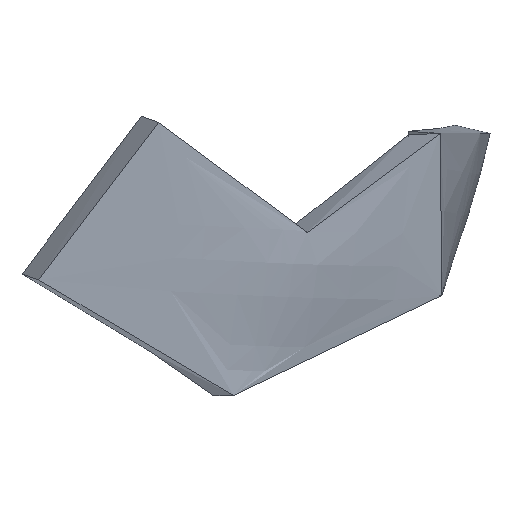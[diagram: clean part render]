
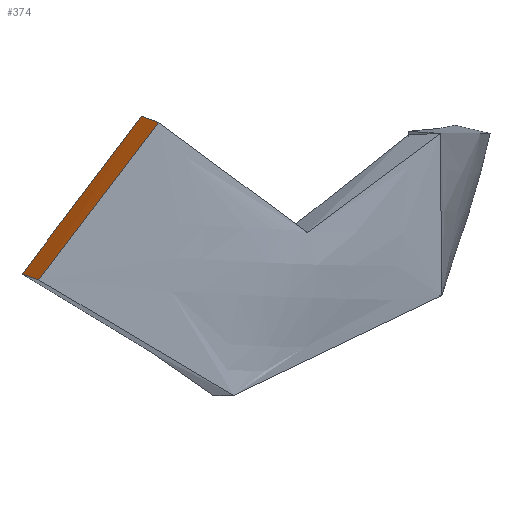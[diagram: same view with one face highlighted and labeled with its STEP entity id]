
A CAD part, left-side view. The second image highlights one B-rep face of the part: STEP entity #374.
In plain terms, the highlighted free-form (B-spline) face has degree [1, 3] with [2, 26] control points.
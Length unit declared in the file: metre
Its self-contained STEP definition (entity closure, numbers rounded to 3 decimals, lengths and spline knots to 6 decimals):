
#47=ORIENTED_EDGE('',*,*,#158,.F.);
#48=ORIENTED_EDGE('',*,*,#160,.T.);
#49=ORIENTED_EDGE('',*,*,#161,.T.);
#50=ORIENTED_EDGE('',*,*,#162,.F.);
#158=EDGE_CURVE('',#211,#212,#254,.T.);
#160=EDGE_CURVE('',#211,#213,#256,.T.);
#161=EDGE_CURVE('',#213,#214,#257,.T.);
#162=EDGE_CURVE('',#212,#214,#258,.F.);
#211=VERTEX_POINT('',#1317);
#212=VERTEX_POINT('',#1322);
#213=VERTEX_POINT('',#1417);
#214=VERTEX_POINT('',#1422);
#254=B_SPLINE_CURVE_WITH_KNOTS('',3,(#1318,#1319,#1320,#1321),
 .UNSPECIFIED.,.F.,.F.,(4,4),(0.,1.),.UNSPECIFIED.);
#256=B_SPLINE_CURVE_WITH_KNOTS('',3,(#1398,#1399,#1400,#1401,#1402,#1403,
#1404,#1405,#1406,#1407,#1408,#1409,#1410,#1411,#1412,#1413,#1414,#1415,
#1416),.UNSPECIFIED.,.F.,.F.,(4,1,1,1,1,1,1,1,1,1,1,1,1,1,1,1,4),(0.,0.125,
0.25,0.3125,0.375,0.4375,0.46875,0.484375,0.5,0.515625,0.53125,0.5625,0.625,
0.6875,0.75,0.875,1.),.UNSPECIFIED.);
#257=B_SPLINE_CURVE_WITH_KNOTS('',3,(#1418,#1419,#1420,#1421),
 .UNSPECIFIED.,.F.,.F.,(4,4),(0.,1.),.UNSPECIFIED.);
#258=B_SPLINE_CURVE_WITH_KNOTS('',3,(#1423,#1424,#1425,#1426,#1427,#1428,
#1429,#1430,#1431,#1432,#1433,#1434,#1435,#1436,#1437,#1438,#1439,#1440,
#1441),.UNSPECIFIED.,.F.,.F.,(4,1,1,1,1,1,1,1,1,1,1,1,1,1,1,1,4),(0.,0.125,
0.25,0.3125,0.375,0.4375,0.46875,0.484375,0.5,0.515625,0.53125,0.5625,0.625,
0.6875,0.75,0.875,1.),.UNSPECIFIED.);
#300=EDGE_LOOP('',(#47,#48,#49,#50));
#326=FACE_BOUND('',#300,.T.);
#351=B_SPLINE_SURFACE_WITH_KNOTS('',1,3,((#1346,#1347,#1348,#1349,#1350,
#1351,#1352,#1353,#1354,#1355,#1356,#1357,#1358,#1359,#1360,#1361,#1362,
#1363,#1364,#1365,#1366,#1367,#1368,#1369,#1370,#1371),(#1372,#1373,#1374,
#1375,#1376,#1377,#1378,#1379,#1380,#1381,#1382,#1383,#1384,#1385,#1386,
#1387,#1388,#1389,#1390,#1391,#1392,#1393,#1394,#1395,#1396,#1397)),
 .RULED_SURF.,.F.,.F.,.F.,(2,2),(4,2,2,2,2,2,2,2,2,2,2,2,4),(0.,1.),(0.,
0.5,0.500488,0.500977,0.501953,
0.503906,0.507812,0.515625,0.53125,
0.5625,0.625,0.75,1.),
 .UNSPECIFIED.);
#374=ADVANCED_FACE('',(#326),#351,.T.);
#1317=CARTESIAN_POINT('',(-0.035746,0.033928,-0.015284));
#1318=CARTESIAN_POINT('',(-0.035746,0.033928,-0.015284));
#1319=CARTESIAN_POINT('',(-0.034944,0.03435,-0.015143));
#1320=CARTESIAN_POINT('',(-0.034143,0.034771,-0.015003));
#1321=CARTESIAN_POINT('',(-0.033341,0.035193,-0.014862));
#1322=CARTESIAN_POINT('',(-0.033341,0.035193,-0.014862));
#1346=CARTESIAN_POINT('',(-0.033341,0.035193,-0.014862));
#1347=CARTESIAN_POINT('',(-0.032942,0.033835,-0.013074));
#1348=CARTESIAN_POINT('',(-0.032496,0.03233,-0.01111));
#1349=CARTESIAN_POINT('',(-0.032012,0.030687,-0.008952));
#1350=CARTESIAN_POINT('',(-0.032011,0.030684,-0.008948));
#1351=CARTESIAN_POINT('',(-0.03201,0.03068,-0.008942));
#1352=CARTESIAN_POINT('',(-0.032009,0.030677,-0.008939));
#1353=CARTESIAN_POINT('',(-0.032007,0.030671,-0.008931));
#1354=CARTESIAN_POINT('',(-0.032006,0.030666,-0.008925));
#1355=CARTESIAN_POINT('',(-0.032002,0.030653,-0.008908));
#1356=CARTESIAN_POINT('',(-0.031999,0.030644,-0.008896));
#1357=CARTESIAN_POINT('',(-0.031991,0.030618,-0.008861));
#1358=CARTESIAN_POINT('',(-0.031986,0.0306,-0.008838));
#1359=CARTESIAN_POINT('',(-0.031971,0.030548,-0.008769));
#1360=CARTESIAN_POINT('',(-0.031961,0.030513,-0.008723));
#1361=CARTESIAN_POINT('',(-0.03193,0.030409,-0.008586));
#1362=CARTESIAN_POINT('',(-0.03191,0.03034,-0.008496));
#1363=CARTESIAN_POINT('',(-0.03185,0.030137,-0.008228));
#1364=CARTESIAN_POINT('',(-0.031811,0.030004,-0.008054));
#1365=CARTESIAN_POINT('',(-0.031696,0.029615,-0.007542));
#1366=CARTESIAN_POINT('',(-0.031624,0.029368,-0.007216));
#1367=CARTESIAN_POINT('',(-0.031418,0.028665,-0.006284));
#1368=CARTESIAN_POINT('',(-0.031296,0.028245,-0.005725));
#1369=CARTESIAN_POINT('',(-0.030973,0.027133,-0.004235));
#1370=CARTESIAN_POINT('',(-0.030818,0.026587,-0.003491));
#1371=CARTESIAN_POINT('',(-0.030718,0.026234,-0.003004));
#1372=CARTESIAN_POINT('',(-0.035746,0.033928,-0.015284));
#1373=CARTESIAN_POINT('',(-0.035345,0.032569,-0.013499));
#1374=CARTESIAN_POINT('',(-0.034903,0.031069,-0.01153));
#1375=CARTESIAN_POINT('',(-0.034419,0.029426,-0.009372));
#1376=CARTESIAN_POINT('',(-0.034418,0.029423,-0.009368));
#1377=CARTESIAN_POINT('',(-0.034417,0.029419,-0.009362));
#1378=CARTESIAN_POINT('',(-0.034416,0.029416,-0.00936));
#1379=CARTESIAN_POINT('',(-0.034414,0.02941,-0.009351));
#1380=CARTESIAN_POINT('',(-0.034413,0.029405,-0.009345));
#1381=CARTESIAN_POINT('',(-0.034409,0.029392,-0.009328));
#1382=CARTESIAN_POINT('',(-0.034407,0.029383,-0.009316));
#1383=CARTESIAN_POINT('',(-0.034399,0.029357,-0.009281));
#1384=CARTESIAN_POINT('',(-0.034394,0.029339,-0.009258));
#1385=CARTESIAN_POINT('',(-0.034378,0.029287,-0.009189));
#1386=CARTESIAN_POINT('',(-0.034368,0.029252,-0.009143));
#1387=CARTESIAN_POINT('',(-0.034337,0.029148,-0.009006));
#1388=CARTESIAN_POINT('',(-0.034317,0.029079,-0.008916));
#1389=CARTESIAN_POINT('',(-0.034257,0.028875,-0.008649));
#1390=CARTESIAN_POINT('',(-0.034218,0.028742,-0.008474));
#1391=CARTESIAN_POINT('',(-0.034103,0.028353,-0.007963));
#1392=CARTESIAN_POINT('',(-0.03403,0.028105,-0.007638));
#1393=CARTESIAN_POINT('',(-0.033822,0.027398,-0.006709));
#1394=CARTESIAN_POINT('',(-0.033697,0.026975,-0.006154));
#1395=CARTESIAN_POINT('',(-0.033365,0.02585,-0.004676));
#1396=CARTESIAN_POINT('',(-0.033201,0.025292,-0.003944));
#1397=CARTESIAN_POINT('',(-0.033093,0.024927,-0.003464));
#1398=CARTESIAN_POINT('',(-0.035746,0.033928,-0.015284));
#1399=CARTESIAN_POINT('',(-0.035646,0.033588,-0.014838));
#1400=CARTESIAN_POINT('',(-0.03544,0.032891,-0.013922));
#1401=CARTESIAN_POINT('',(-0.035171,0.031976,-0.01272));
#1402=CARTESIAN_POINT('',(-0.034947,0.031216,-0.011723));
#1403=CARTESIAN_POINT('',(-0.034776,0.030635,-0.01096));
#1404=CARTESIAN_POINT('',(-0.034629,0.030136,-0.010305));
#1405=CARTESIAN_POINT('',(-0.034526,0.029787,-0.009846));
#1406=CARTESIAN_POINT('',(-0.034464,0.029577,-0.00957));
#1407=CARTESIAN_POINT('',(-0.034425,0.029444,-0.009396));
#1408=CARTESIAN_POINT('',(-0.034356,0.029212,-0.009091));
#1409=CARTESIAN_POINT('',(-0.034277,0.028944,-0.008739));
#1410=CARTESIAN_POINT('',(-0.034139,0.028475,-0.008123));
#1411=CARTESIAN_POINT('',(-0.033957,0.027858,-0.007313));
#1412=CARTESIAN_POINT('',(-0.033759,0.027186,-0.006431));
#1413=CARTESIAN_POINT('',(-0.033524,0.026388,-0.005383));
#1414=CARTESIAN_POINT('',(-0.033283,0.025571,-0.00431));
#1415=CARTESIAN_POINT('',(-0.033147,0.02511,-0.003704));
#1416=CARTESIAN_POINT('',(-0.033093,0.024927,-0.003464));
#1417=CARTESIAN_POINT('',(-0.033093,0.024927,-0.003464));
#1418=CARTESIAN_POINT('',(-0.033093,0.024927,-0.003464));
#1419=CARTESIAN_POINT('',(-0.032301,0.025362,-0.00331));
#1420=CARTESIAN_POINT('',(-0.03151,0.025798,-0.003157));
#1421=CARTESIAN_POINT('',(-0.030718,0.026234,-0.003004));
#1422=CARTESIAN_POINT('',(-0.030718,0.026234,-0.003004));
#1423=CARTESIAN_POINT('',(-0.030718,0.026234,-0.003004));
#1424=CARTESIAN_POINT('',(-0.030768,0.026411,-0.003248));
#1425=CARTESIAN_POINT('',(-0.030896,0.02686,-0.003863));
#1426=CARTESIAN_POINT('',(-0.031127,0.027665,-0.004949));
#1427=CARTESIAN_POINT('',(-0.031357,0.028455,-0.006004));
#1428=CARTESIAN_POINT('',(-0.031552,0.029122,-0.006891));
#1429=CARTESIAN_POINT('',(-0.031732,0.029737,-0.007702));
#1430=CARTESIAN_POINT('',(-0.03187,0.030205,-0.008319));
#1431=CARTESIAN_POINT('',(-0.031949,0.030473,-0.008671));
#1432=CARTESIAN_POINT('',(-0.032017,0.030705,-0.008976));
#1433=CARTESIAN_POINT('',(-0.032056,0.030838,-0.00915));
#1434=CARTESIAN_POINT('',(-0.032118,0.031048,-0.009426));
#1435=CARTESIAN_POINT('',(-0.032221,0.031397,-0.009884));
#1436=CARTESIAN_POINT('',(-0.032369,0.031897,-0.010539));
#1437=CARTESIAN_POINT('',(-0.032541,0.032479,-0.011302));
#1438=CARTESIAN_POINT('',(-0.032765,0.033239,-0.012298));
#1439=CARTESIAN_POINT('',(-0.033036,0.034156,-0.013499));
#1440=CARTESIAN_POINT('',(-0.033241,0.034853,-0.014415));
#1441=CARTESIAN_POINT('',(-0.033341,0.035193,-0.014862));
